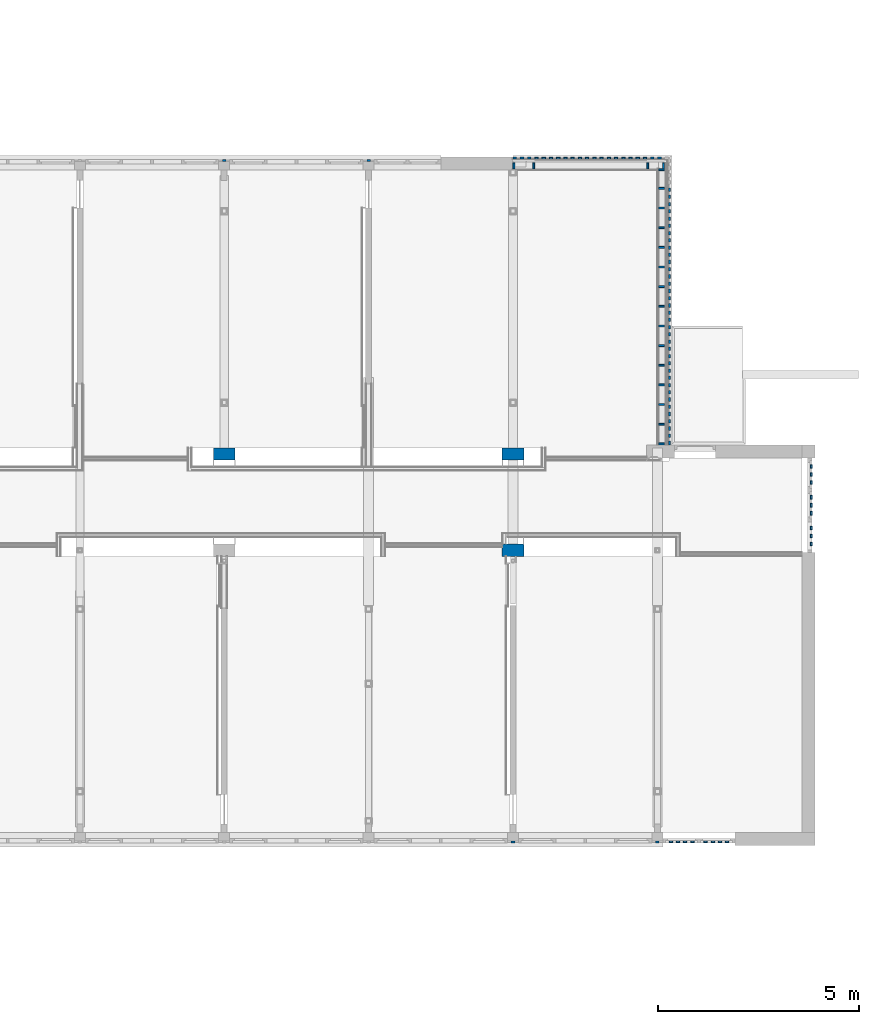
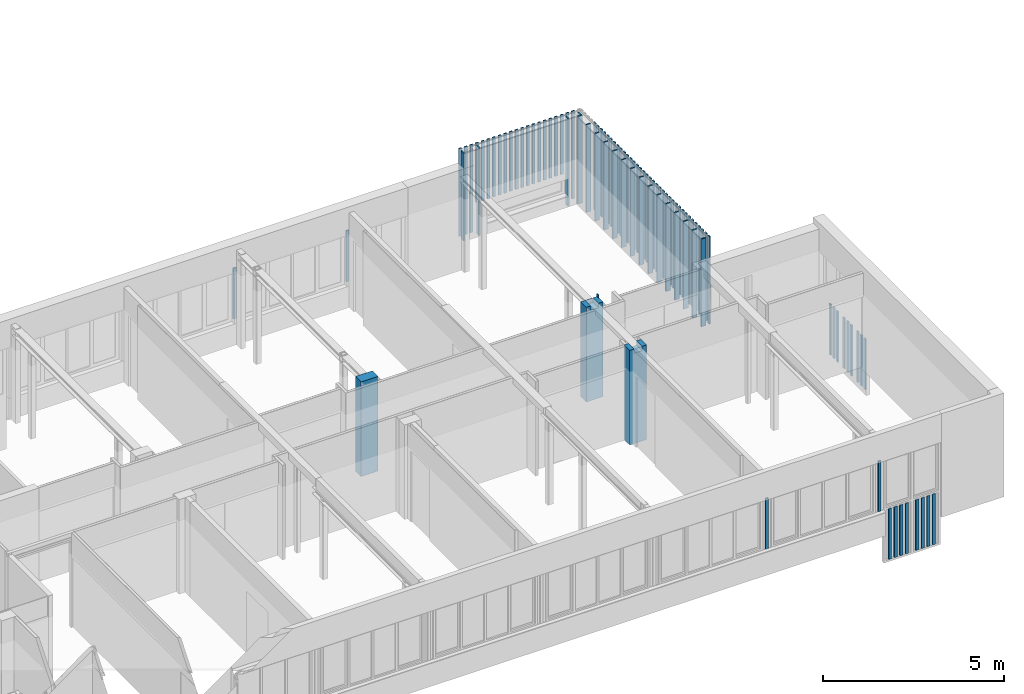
# One storey, part 16 of 99: 100 columns.
"""IFC2X3 building model written with IfcOpenShell, lengths in millimetres."""

from ifc_helpers import new_model, entity, si_unit, converted_unit, derived_unit, money_unit, direction, frame, origin_with_axes, place, context, subcontext, project, spatial, faceted_brep, material, type_object, element, save


model = new_model("IFC2X3")

# Units and contexts
model_context = context("Model", 3, precision=0.01, world=origin_with_axes(), true_north=direction((0.0, 1.0)))
body_context = subcontext(model_context, "Body", "Model", "MODEL_VIEW")
ifc_project = project(units=[si_unit("LENGTHUNIT", "METRE", prefix="MILLI"), si_unit("AREAUNIT", "SQUARE_METRE"), si_unit("VOLUMEUNIT", "CUBIC_METRE"), converted_unit("PLANEANGLEUNIT", "DEGREE", entity("IfcPlaneAngleMeasure", 0.0174532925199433), si_unit("PLANEANGLEUNIT", "RADIAN"), dimensions=[0, 0, 0, 0, 0, 0, 0]), money_unit("EUR"), converted_unit("TIMEUNIT", "Year", entity("IfcTimeMeasure", 31557600.0), si_unit("TIMEUNIT", "SECOND"), dimensions=[0, 0, 1, 0, 0, 0, 0]), si_unit("MASSUNIT", "GRAM", prefix="KILO"), si_unit("THERMODYNAMICTEMPERATUREUNIT", "DEGREE_CELSIUS"), si_unit("LUMINOUSINTENSITYUNIT", "LUMEN"), si_unit("ENERGYUNIT", "JOULE", prefix="MEGA"), derived_unit("THERMALCONDUCTANCEUNIT", [(si_unit("POWERUNIT", "WATT"), 1), (si_unit("LENGTHUNIT", "METRE"), -1), (si_unit("THERMODYNAMICTEMPERATUREUNIT", "KELVIN"), -1)]), derived_unit("SPECIFICHEATCAPACITYUNIT", [(si_unit("ENERGYUNIT", "JOULE"), 1), (si_unit("MASSUNIT", "GRAM", prefix="KILO"), -1), (si_unit("THERMODYNAMICTEMPERATUREUNIT", "KELVIN"), -1)]), derived_unit("MASSDENSITYUNIT", [(si_unit("MASSUNIT", "GRAM", prefix="KILO"), 1), (si_unit("VOLUMEUNIT", "CUBIC_METRE"), -1)])], contexts=[model_context])

# Site, building, storey
site_placement = place(None, origin_with_axes())
site = spatial("IfcSite", under=ifc_project, at=site_placement, Name="Site", CompositionType="ELEMENT")
building_placement = place(site_placement, origin_with_axes())
building = spatial("IfcBuilding", under=site, at=building_placement, Name="Naam gebouw", CompositionType="ELEMENT")
storey_placement = place(building_placement, frame((0.0, 0.0, 7650.0), z_axis=(0.0, 0.0, 1.0), x_axis=(1.0, 0.0, 0.0)))
storey = spatial("IfcBuildingStorey", under=building, at=storey_placement, Name="2e verdieping N", CompositionType="ELEMENT", Elevation=7650.0)

# Columns
ifc_material_1 = material(Name="Metaal - Staal C")
column_type_1 = type_object("IfcColumnType", Name="Metaal - Staal C 90 x 44", PredefinedType="COLUMN")
for number, where, z_axis, x_axis, name in (
    (1, (54337.74999999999, 10752.91242510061, -993.0000000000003), (0.0, 0.0, 1.0), (1.0, 0.0, 0.0), "_Kolom-x"),
    (2, (54515.41666666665, 10752.91242510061, -993.0000000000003), (0.0, 0.0, 1.0), (1.0, 0.0, 0.0), "_Kolom-x"),
    (3, (54693.08333333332, 10752.91242510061, -993.0000000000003), (0.0, 0.0, 1.0), (1.0, 0.0, 0.0), "_Kolom-x"),
    (4, (54870.74999999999, 10752.91242510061, -993.0000000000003), (0.0, 0.0, 1.0), (1.0, 0.0, 0.0), "_Kolom-x"),
    (5, (55204.24999999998, 10752.91242510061, -993.0000000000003), (0.0, 0.0, 1.0), (1.0, 0.0, 0.0), "_Kolom-x"),
    (6, (55381.91666666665, 10752.91242510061, -993.0000000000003), (0.0, 0.0, 1.0), (1.0, 0.0, 0.0), "_Kolom-x"),
    (7, (55559.58333333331, 10752.91242510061, -993.0000000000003), (0.0, 0.0, 1.0), (1.0, 0.0, 0.0), "_Kolom-x"),
    (8, (55737.24999999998, 10752.91242510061, -993.0000000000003), (0.0, 0.0, 1.0), (1.0, 0.0, 0.0), "_Kolom-x"),
):
    element("IfcColumn", number, at=place(storey_placement, frame(where, z_axis=z_axis, x_axis=x_axis)), inside=storey, type_object=column_type_1, material=ifc_material_1, Name=name, ObjectType="COLUMN", context=body_context, shape_type="Brep", body=[
        faceted_brep([(-45.00000000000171, -22.00000000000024, 1713.000000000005), (-45.00000000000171, -22.00000000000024, 0.0), (45.00000000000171, -22.00000000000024, 0.0), (45.00000000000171, -22.00000000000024, 1713.000000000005), (-45.00000000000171, 22.00000000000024, 1713.000000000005), (-45.00000000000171, 22.00000000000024, 0.0), (45.00000000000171, 22.00000000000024, 0.0), (45.00000000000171, 22.00000000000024, 1713.000000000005)], [[[0, 1, 2, 3]], [[4, 5, 1, 0]], [[2, 1, 5, 6]], [[3, 2, 6, 7]], [[4, 0, 3, 7]], [[7, 6, 5, 4]]]),
    ])
for number, where, z_axis, x_axis, name in (
    (9, (50399.99999999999, 10752.9124251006, 719.9999999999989), (0.0, 0.0, 1.0), (1.0, 0.0, 0.0), "_Kolom-x"),
    (10, (53999.99999999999, 10752.9124251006, 719.9999999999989), (0.0, 0.0, 1.0), (1.0, 0.0, 0.0), "_Kolom-x"),
):
    element("IfcColumn", number, at=place(storey_placement, frame(where, z_axis=z_axis, x_axis=x_axis)), inside=storey, type_object=column_type_1, material=ifc_material_1, Name=name, ObjectType="COLUMN", context=body_context, shape_type="Brep", body=[
        faceted_brep([(45.00000000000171, -22.00000000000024, 17.63269807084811), (45.00000000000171, -16.99999999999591, 18.51433297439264), (45.00000000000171, -16.99999999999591, 28.51433297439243), (45.00000000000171, -14.99999999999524, 28.51433297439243), (45.00000000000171, -14.99999999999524, 16.83613371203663), (45.00000000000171, -22.00000000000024, 15.60184484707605), (45.00000000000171, -22.00000000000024, 0.0), (45.00000000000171, 22.00000000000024, 0.0), (45.00000000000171, 22.00000000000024, 1720.000000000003), (45.00000000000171, -22.00000000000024, 1720.000000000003), (-45.00000000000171, -16.99999999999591, 18.51433297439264), (-45.00000000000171, -22.00000000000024, 17.63269807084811), (-45.00000000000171, -16.99999999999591, 28.51433297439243), (-45.00000000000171, -14.99999999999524, 28.51433297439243), (-45.00000000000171, -14.99999999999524, 16.83613371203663), (-45.00000000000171, -22.00000000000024, 15.60184484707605), (-45.00000000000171, -22.00000000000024, 0.0), (-45.00000000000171, 22.00000000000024, 0.0), (-45.00000000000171, 22.00000000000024, 1720.000000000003), (-45.00000000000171, -22.00000000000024, 1720.000000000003)], [[[0, 1, 2, 3, 4, 5, 6, 7, 8, 9]], [[10, 1, 0, 11]], [[12, 2, 1, 10]], [[13, 3, 2, 12]], [[14, 4, 3, 13]], [[15, 5, 4, 14]], [[6, 5, 15, 16]], [[7, 6, 16, 17]], [[18, 8, 7, 17]], [[8, 18, 19, 9]], [[19, 11, 0, 9]], [[12, 10, 11, 19, 18, 17, 16, 15, 14, 13]]]),
    ])
for number, where, z_axis, x_axis, name in (
    (11, (57837.99999999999, 19712.31718700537, -993.0000000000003), (0.0, 0.0, 1.0), (0.0, 1.0, 0.0), "_Kolom-x"),
    (12, (57837.99999999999, 19911.07909176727, -993.0000000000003), (0.0, 0.0, 1.0), (0.0, 1.0, 0.0), "_Kolom-x"),
    (13, (57837.99999999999, 20109.84099652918, -993.0000000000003), (0.0, 0.0, 1.0), (0.0, 1.0, 0.0), "_Kolom-x"),
    (14, (57837.99999999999, 18949.6505203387, -993.0000000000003), (0.0, 0.0, 1.0), (0.0, 1.0, 0.0), "_Kolom-x"),
    (15, (57837.99999999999, 19148.41242510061, -993.0000000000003), (0.0, 0.0, 1.0), (0.0, 1.0, 0.0), "_Kolom-x"),
    (16, (57837.99999999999, 19347.17432986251, -993.0000000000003), (0.0, 0.0, 1.0), (0.0, 1.0, 0.0), "_Kolom-x"),
    (17, (57837.99999999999, 18186.98385367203, -993.0000000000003), (0.0, 0.0, 1.0), (0.0, 1.0, 0.0), "_Kolom-x"),
    (18, (57837.99999999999, 18385.74575843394, -993.0000000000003), (0.0, 0.0, 1.0), (0.0, 1.0, 0.0), "_Kolom-x"),
    (19, (57837.99999999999, 18584.50766319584, -993.0000000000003), (0.0, 0.0, 1.0), (0.0, 1.0, 0.0), "_Kolom-x"),
):
    element("IfcColumn", number, at=place(storey_placement, frame(where, z_axis=z_axis, x_axis=x_axis)), inside=storey, type_object=column_type_1, material=ifc_material_1, Name=name, ObjectType="COLUMN", context=body_context, shape_type="Brep", body=[
        faceted_brep([(-45.00000000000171, -21.99999999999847, 1713.000000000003), (-45.00000000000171, -21.99999999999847, 0.0), (45.00000000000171, -21.99999999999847, 0.0), (45.00000000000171, -21.99999999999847, 1713.000000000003), (-45.00000000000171, 21.99999999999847, 1713.000000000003), (-45.00000000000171, 21.99999999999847, 0.0), (45.00000000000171, 21.99999999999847, 0.0), (45.00000000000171, 21.99999999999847, 1713.000000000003)], [[[0, 1, 2, 3]], [[4, 5, 1, 0]], [[2, 1, 5, 6]], [[3, 2, 6, 7]], [[4, 0, 3, 7]], [[7, 6, 5, 4]]]),
    ])
column_1_placement = place(storey_placement, frame((46799.99999999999, 27743.91242510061, 719.9999999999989), z_axis=(0.0, 0.0, 1.0), x_axis=(-1.0, 0.0, 0.0)))
element("IfcColumn", 20, at=column_1_placement, inside=storey, type_object=column_type_1, material=ifc_material_1, Name="_Kolom-x", ObjectType="COLUMN", context=body_context, shape_type="Brep", body=[
    faceted_brep([(-45.00000000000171, -14.99999999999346, 28.51433297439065), (-45.00000000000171, -16.99999999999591, 28.51433297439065), (-45.00000000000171, -16.99999999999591, 18.51433297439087), (-45.00000000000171, -21.99999999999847, 17.63269807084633), (-45.00000000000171, -21.99999999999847, 1720.000000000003), (-45.00000000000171, 21.99999999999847, 1720.000000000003), (-45.00000000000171, 21.99999999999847, 0.0), (-45.00000000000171, -21.99999999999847, 0.0), (-45.00000000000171, -21.99999999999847, 15.60184484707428), (-45.00000000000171, -14.99999999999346, 16.83613371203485), (45.00000000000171, -16.99999999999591, 28.51433297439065), (45.00000000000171, -14.99999999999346, 28.51433297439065), (45.00000000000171, -16.99999999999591, 18.51433297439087), (45.00000000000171, -21.99999999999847, 17.63269807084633), (45.00000000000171, -21.99999999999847, 1720.000000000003), (45.00000000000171, 21.99999999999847, 1720.000000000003), (45.00000000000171, 21.99999999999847, 0.0), (45.00000000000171, -21.99999999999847, 0.0), (45.00000000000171, -21.99999999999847, 15.60184484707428), (45.00000000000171, -14.99999999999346, 16.83613371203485)], [[[0, 1, 2, 3, 4, 5, 6, 7, 8, 9]], [[10, 1, 0, 11]], [[12, 2, 1, 10]], [[12, 13, 3, 2]], [[4, 3, 13, 14]], [[15, 5, 4, 14]], [[5, 15, 16, 6]], [[16, 17, 7, 6]], [[17, 18, 8, 7]], [[19, 9, 8, 18]], [[11, 0, 9, 19]], [[11, 19, 18, 17, 16, 15, 14, 13, 12, 10]]]),
])
column_2_placement = place(storey_placement, frame((43199.99999999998, 27743.91242510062, 719.9999999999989), z_axis=(0.0, 0.0, 1.0), x_axis=(-1.0, 0.0, 0.0)))
element("IfcColumn", 21, at=column_2_placement, inside=storey, type_object=column_type_1, material=ifc_material_1, Name="_Kolom-x", ObjectType="COLUMN", context=body_context, shape_type="Brep", body=[
    faceted_brep([(-45.00000000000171, -14.99999999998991, 28.51433297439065), (-45.00000000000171, -16.99999999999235, 28.51433297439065), (-45.00000000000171, -16.99999999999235, 18.51433297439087), (-45.00000000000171, -21.99999999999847, 17.63269807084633), (-45.00000000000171, -21.99999999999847, 1720.000000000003), (-45.00000000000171, 21.99999999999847, 1720.000000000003), (-45.00000000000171, 21.99999999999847, 0.0), (-45.00000000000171, -21.99999999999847, 0.0), (-45.00000000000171, -21.99999999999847, 15.60184484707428), (-45.00000000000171, -14.99999999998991, 16.83613371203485), (45.00000000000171, -16.99999999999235, 28.51433297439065), (45.00000000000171, -14.99999999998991, 28.51433297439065), (45.00000000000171, -16.99999999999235, 18.51433297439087), (45.00000000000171, -21.99999999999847, 17.63269807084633), (45.00000000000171, -21.99999999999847, 1720.000000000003), (45.00000000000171, 21.99999999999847, 1720.000000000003), (45.00000000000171, 21.99999999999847, 0.0), (45.00000000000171, -21.99999999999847, 0.0), (45.00000000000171, -21.99999999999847, 15.60184484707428), (45.00000000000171, -14.99999999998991, 16.83613371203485)], [[[0, 1, 2, 3, 4, 5, 6, 7, 8, 9]], [[10, 1, 0, 11]], [[12, 2, 1, 10]], [[12, 13, 3, 2]], [[4, 3, 13, 14]], [[15, 5, 4, 14]], [[5, 15, 16, 6]], [[16, 17, 7, 6]], [[17, 18, 8, 7]], [[19, 9, 8, 18]], [[11, 0, 9, 19]], [[11, 19, 18, 17, 16, 15, 14, 13, 12, 10]]]),
])
for number, where, z_axis, x_axis, name in (
    (22, (54052.62790697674, 27805.91242510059, 939.9999999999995), (0.0, 0.0, 1.0), (-1.0, 0.0, 0.0), "_Kolom-x"),
    (23, (53872.25581395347, 27805.91242510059, 939.9999999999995), (0.0, 0.0, 1.0), (-1.0, 0.0, 0.0), "_Kolom-x"),
    (24, (50805.93023255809, 27805.91242510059, 939.9999999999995), (0.0, 0.0, 1.0), (-1.0, 0.0, 0.0), "_Kolom-x"),
    (25, (50445.18604651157, 27805.9124251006, 939.9999999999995), (0.0, 0.0, 1.0), (-1.0, 0.0, 0.0), "_Kolom-x"),
    (26, (50625.55813953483, 27805.9124251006, 939.9999999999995), (0.0, 0.0, 1.0), (-1.0, 0.0, 0.0), "_Kolom-x"),
):
    element("IfcColumn", number, at=place(storey_placement, frame(where, z_axis=z_axis, x_axis=x_axis)), inside=storey, type_object=column_type_1, material=ifc_material_1, Name=name, ObjectType="COLUMN", context=body_context, shape_type="Brep", body=[
        faceted_brep([(45.00000000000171, -21.99999999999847, 0.0), (45.00000000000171, -21.99999999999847, 4.669572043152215), (-45.00000000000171, -21.99999999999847, 4.669572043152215), (-45.00000000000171, -21.99999999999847, 0.0), (45.00000000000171, 21.99999999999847, 0.0), (45.00000000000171, 21.99999999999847, 12.4279591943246), (-45.00000000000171, 21.99999999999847, 12.4279591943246), (-45.00000000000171, 21.99999999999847, 0.0)], [[[0, 1, 2, 3]], [[4, 5, 1, 0]], [[5, 6, 2, 1]], [[3, 2, 6, 7]], [[4, 0, 3, 7]], [[7, 6, 5, 4]]]),
        faceted_brep([(-45.00000000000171, 21.99999999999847, 2960.000000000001), (-45.00000000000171, 21.99999999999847, 14.45881241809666), (-45.00000000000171, -21.99999999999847, 6.70042526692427), (-45.00000000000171, -21.99999999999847, 2960.000000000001), (45.00000000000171, 21.99999999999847, 2960.000000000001), (45.00000000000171, 21.99999999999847, 14.45881241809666), (45.00000000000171, -21.99999999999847, 6.70042526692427), (45.00000000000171, -21.99999999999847, 2960.000000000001)], [[[0, 1, 2, 3]], [[4, 5, 1, 0]], [[5, 6, 2, 1]], [[3, 2, 6, 7]], [[4, 0, 3, 7]], [[7, 6, 5, 4]]]),
    ])
for number, where, z_axis, x_axis, name in (
    (27, (53691.88372093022, 27805.91242510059, 1890.0), (0.0, 0.0, 1.0), (-1.0, 0.0, 0.0), "_Kolom-x"),
    (28, (53511.51162790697, 27805.91242510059, 1890.0), (0.0, 0.0, 1.0), (-1.0, 0.0, 0.0), "_Kolom-x"),
    (29, (53331.1395348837, 27805.91242510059, 1890.0), (0.0, 0.0, 1.0), (-1.0, 0.0, 0.0), "_Kolom-x"),
    (30, (53150.76744186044, 27805.91242510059, 1890.0), (0.0, 0.0, 1.0), (-1.0, 0.0, 0.0), "_Kolom-x"),
    (31, (52970.39534883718, 27805.91242510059, 1890.0), (0.0, 0.0, 1.0), (-1.0, 0.0, 0.0), "_Kolom-x"),
    (32, (52790.02325581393, 27805.91242510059, 1890.0), (0.0, 0.0, 1.0), (-1.0, 0.0, 0.0), "_Kolom-x"),
    (33, (52609.65116279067, 27805.91242510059, 1890.0), (0.0, 0.0, 1.0), (-1.0, 0.0, 0.0), "_Kolom-x"),
    (34, (52429.27906976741, 27805.91242510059, 1890.0), (0.0, 0.0, 1.0), (-1.0, 0.0, 0.0), "_Kolom-x"),
    (35, (52248.90697674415, 27805.91242510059, 1890.0), (0.0, 0.0, 1.0), (-1.0, 0.0, 0.0), "_Kolom-x"),
    (36, (52068.53488372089, 27805.91242510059, 1890.0), (0.0, 0.0, 1.0), (-1.0, 0.0, 0.0), "_Kolom-x"),
    (37, (51888.16279069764, 27805.91242510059, 1890.0), (0.0, 0.0, 1.0), (-1.0, 0.0, 0.0), "_Kolom-x"),
    (38, (51707.79069767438, 27805.91242510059, 1890.0), (0.0, 0.0, 1.0), (-1.0, 0.0, 0.0), "_Kolom-x"),
    (39, (51527.41860465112, 27805.91242510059, 1890.0), (0.0, 0.0, 1.0), (-1.0, 0.0, 0.0), "_Kolom-x"),
    (40, (51166.6744186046, 27805.91242510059, 1890.0), (0.0, 0.0, 1.0), (-1.0, 0.0, 0.0), "_Kolom-x"),
    (41, (51347.04651162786, 27805.91242510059, 1890.0), (0.0, 0.0, 1.0), (-1.0, 0.0, 0.0), "_Kolom-x"),
    (42, (50986.30232558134, 27805.91242510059, 1890.0), (0.0, 0.0, 1.0), (-1.0, 0.0, 0.0), "_Kolom-x"),
):
    element("IfcColumn", number, at=place(storey_placement, frame(where, z_axis=z_axis, x_axis=x_axis)), inside=storey, type_object=column_type_1, material=ifc_material_1, Name=name, ObjectType="COLUMN", context=body_context, shape_type="Brep", body=[
        faceted_brep([(-45.00000000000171, -21.99999999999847, 2010.0), (-45.00000000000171, -21.99999999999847, 0.0), (45.00000000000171, -21.99999999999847, 0.0), (45.00000000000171, -21.99999999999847, 2010.0), (-45.00000000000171, 21.99999999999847, 2010.0), (-45.00000000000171, 21.99999999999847, 0.0), (45.00000000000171, 21.99999999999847, 0.0), (45.00000000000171, 21.99999999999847, 2010.0)], [[[0, 1, 2, 3]], [[4, 5, 1, 0]], [[2, 1, 5, 6]], [[3, 2, 6, 7]], [[4, 0, 3, 7]], [[7, 6, 5, 4]]]),
    ])
for number, where, z_axis, x_axis, name in (
    (43, (54300.00000000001, 27017.09976687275, 939.9999999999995), (0.0, 0.0, 1.0), (0.0, 1.0, 0.0), "_Kolom-x"),
    (44, (54300.00000000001, 26836.64660231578, 939.9999999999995), (0.0, 0.0, 1.0), (0.0, 1.0, 0.0), "_Kolom-x"),
    (45, (54300.00000000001, 26656.19343775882, 939.9999999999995), (0.0, 0.0, 1.0), (0.0, 1.0, 0.0), "_Kolom-x"),
    (46, (54300.00000000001, 26475.74027320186, 939.9999999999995), (0.0, 0.0, 1.0), (0.0, 1.0, 0.0), "_Kolom-x"),
    (47, (54300.00000000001, 26295.2871086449, 939.9999999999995), (0.0, 0.0, 1.0), (0.0, 1.0, 0.0), "_Kolom-x"),
    (48, (54300.00000000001, 25934.38077953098, 939.9999999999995), (0.0, 0.0, 1.0), (0.0, 1.0, 0.0), "_Kolom-x"),
    (49, (54300.00000000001, 26114.83394408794, 939.9999999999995), (0.0, 0.0, 1.0), (0.0, 1.0, 0.0), "_Kolom-x"),
    (50, (54300.00000000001, 25753.92761497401, 939.9999999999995), (0.0, 0.0, 1.0), (0.0, 1.0, 0.0), "_Kolom-x"),
    (51, (54300.00000000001, 25573.47445041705, 939.9999999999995), (0.0, 0.0, 1.0), (0.0, 1.0, 0.0), "_Kolom-x"),
    (52, (54300.00000000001, 25393.02128586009, 939.9999999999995), (0.0, 0.0, 1.0), (0.0, 1.0, 0.0), "_Kolom-x"),
    (53, (54300.00000000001, 25212.56812130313, 939.9999999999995), (0.0, 0.0, 1.0), (0.0, 1.0, 0.0), "_Kolom-x"),
    (54, (54300.00000000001, 24851.66179218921, 939.9999999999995), (0.0, 0.0, 1.0), (0.0, 1.0, 0.0), "_Kolom-x"),
    (55, (54300.00000000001, 24671.20862763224, 939.9999999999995), (0.0, 0.0, 1.0), (0.0, 1.0, 0.0), "_Kolom-x"),
    (56, (54300.00000000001, 24490.75546307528, 939.9999999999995), (0.0, 0.0, 1.0), (0.0, 1.0, 0.0), "_Kolom-x"),
    (57, (54300.00000000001, 24310.30229851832, 939.9999999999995), (0.0, 0.0, 1.0), (0.0, 1.0, 0.0), "_Kolom-x"),
    (58, (54300.00000000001, 25032.11495674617, 939.9999999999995), (0.0, 0.0, 1.0), (0.0, 1.0, 0.0), "_Kolom-x"),
    (59, (54300.00000000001, 23949.3959694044, 939.9999999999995), (0.0, 0.0, 1.0), (0.0, 1.0, 0.0), "_Kolom-x"),
    (60, (54300.00000000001, 24129.84913396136, 939.9999999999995), (0.0, 0.0, 1.0), (0.0, 1.0, 0.0), "_Kolom-x"),
    (61, (54300.00000000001, 23768.94280484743, 939.9999999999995), (0.0, 0.0, 1.0), (0.0, 1.0, 0.0), "_Kolom-x"),
    (62, (54300.00000000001, 23408.03647573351, 939.9999999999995), (0.0, 0.0, 1.0), (0.0, 1.0, 0.0), "_Kolom-x"),
    (63, (54300.00000000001, 23227.58331117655, 939.9999999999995), (0.0, 0.0, 1.0), (0.0, 1.0, 0.0), "_Kolom-x"),
    (64, (54300.00000000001, 23047.13014661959, 939.9999999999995), (0.0, 0.0, 1.0), (0.0, 1.0, 0.0), "_Kolom-x"),
    (65, (54300.00000000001, 22686.22381750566, 939.9999999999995), (0.0, 0.0, 1.0), (0.0, 1.0, 0.0), "_Kolom-x"),
    (66, (54300.00000000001, 22866.67698206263, 939.9999999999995), (0.0, 0.0, 1.0), (0.0, 1.0, 0.0), "_Kolom-x"),
    (67, (54300.00000000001, 22505.7706529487, 939.9999999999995), (0.0, 0.0, 1.0), (0.0, 1.0, 0.0), "_Kolom-x"),
    (68, (54300.00000000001, 22325.31748839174, 939.9999999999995), (0.0, 0.0, 1.0), (0.0, 1.0, 0.0), "_Kolom-x"),
    (69, (54300.00000000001, 23588.48964029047, 939.9999999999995), (0.0, 0.0, 1.0), (0.0, 1.0, 0.0), "_Kolom-x"),
    (70, (54300.00000000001, 22144.86432383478, 939.9999999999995), (0.0, 0.0, 1.0), (0.0, 1.0, 0.0), "_Kolom-x"),
    (71, (54300.00000000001, 21964.41115927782, 939.9999999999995), (0.0, 0.0, 1.0), (0.0, 1.0, 0.0), "_Kolom-x"),
    (72, (54300.00000000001, 21603.50483016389, 939.9999999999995), (0.0, 0.0, 1.0), (0.0, 1.0, 0.0), "_Kolom-x"),
    (73, (54300.00000000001, 21423.05166560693, 939.9999999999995), (0.0, 0.0, 1.0), (0.0, 1.0, 0.0), "_Kolom-x"),
    (74, (54300.00000000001, 21242.59850104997, 939.9999999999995), (0.0, 0.0, 1.0), (0.0, 1.0, 0.0), "_Kolom-x"),
    (75, (54300.00000000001, 21062.14533649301, 939.9999999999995), (0.0, 0.0, 1.0), (0.0, 1.0, 0.0), "_Kolom-x"),
    (76, (54300.00000000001, 20881.69217193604, 939.9999999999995), (0.0, 0.0, 1.0), (0.0, 1.0, 0.0), "_Kolom-x"),
    (77, (54300.00000000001, 20701.23900737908, 939.9999999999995), (0.0, 0.0, 1.0), (0.0, 1.0, 0.0), "_Kolom-x"),
    (78, (54300.00000000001, 21783.95799472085, 939.9999999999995), (0.0, 0.0, 1.0), (0.0, 1.0, 0.0), "_Kolom-x"),
):
    element("IfcColumn", number, at=place(storey_placement, frame(where, z_axis=z_axis, x_axis=x_axis)), inside=storey, type_object=column_type_1, material=ifc_material_1, Name=name, ObjectType="COLUMN", context=body_context, shape_type="Brep", body=[
        faceted_brep([(45.00000000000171, 21.99999999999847, 0.0), (45.00000000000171, 21.99999999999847, 12.4279591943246), (45.00000000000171, -21.99999999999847, 4.669572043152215), (45.00000000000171, -21.99999999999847, 0.0), (-45.00000000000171, 21.99999999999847, 0.0), (-45.00000000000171, 21.99999999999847, 12.4279591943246), (-45.00000000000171, -21.99999999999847, 4.669572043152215), (-45.00000000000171, -21.99999999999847, 0.0)], [[[0, 1, 2, 3]], [[4, 5, 1, 0]], [[5, 6, 2, 1]], [[3, 2, 6, 7]], [[0, 3, 7, 4]], [[7, 6, 5, 4]]]),
        faceted_brep([(-45.00000000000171, -21.99999999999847, 2960.000000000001), (-45.00000000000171, -21.99999999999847, 6.70042526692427), (45.00000000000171, -21.99999999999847, 6.70042526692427), (45.00000000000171, -21.99999999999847, 2960.000000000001), (-45.00000000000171, 21.99999999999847, 2960.000000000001), (-45.00000000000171, 21.99999999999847, 14.45881241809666), (45.00000000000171, 21.99999999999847, 14.45881241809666), (45.00000000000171, 21.99999999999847, 2960.000000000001)], [[[0, 1, 2, 3]], [[4, 5, 1, 0]], [[5, 6, 2, 1]], [[3, 2, 6, 7]], [[7, 4, 0, 3]], [[7, 6, 5, 4]]]),
    ])
ifc_material_2 = material(Name="ALG - CONSTRUCTIEF")
column_type_2 = type_object("IfcColumnType", Name="ALG - CONSTRUCTIEF 540 x 310", PredefinedType="COLUMN")
column_3_placement = place(storey_placement, frame((50399.99999999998, 18025.91242510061, -99.99999999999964), z_axis=(0.0, 0.0, 1.0), x_axis=(1.0, 0.0, 0.0)))
element("IfcColumn", 79, at=column_3_placement, inside=storey, type_object=column_type_2, material=ifc_material_2, Name="_Kolom-x", ObjectType="COLUMN", context=body_context, shape_type="Brep", body=[
    faceted_brep([(-124.9999999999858, 155.0000000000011, 3299.999999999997), (-124.9999999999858, 155.0000000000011, 3149.999999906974), (125.0000000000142, 155.0000000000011, 3149.999999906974), (125.0000000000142, 155.0000000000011, 3299.999999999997), (270.0000000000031, 155.0000000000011, 3299.999999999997), (270.0000000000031, 155.0000000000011, 99.99999999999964), (-270.0000000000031, 155.0000000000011, 99.99999999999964), (-270.0000000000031, 155.0000000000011, 3299.999999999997), (-124.9999999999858, -155.0000000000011, 3149.999999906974), (-124.9999999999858, -155.0000000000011, 3299.999999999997), (125.0000000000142, -155.0000000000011, 3149.999999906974), (125.0000000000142, -155.0000000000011, 3299.999999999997), (270.0000000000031, -155.0000000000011, 3299.999999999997), (270.0000000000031, -155.0000000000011, 99.99999999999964), (-270.0000000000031, -155.0000000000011, 99.99999999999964), (-270.0000000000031, -155.0000000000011, 3299.999999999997)], [[[0, 1, 2, 3, 4, 5, 6, 7]], [[8, 1, 0, 9]], [[10, 2, 1, 8]], [[10, 11, 3, 2]], [[4, 3, 11, 12]], [[4, 12, 13, 5]], [[13, 14, 6, 5]], [[15, 7, 6, 14]], [[15, 9, 0, 7]], [[10, 8, 9, 15, 14, 13, 12, 11]]]),
])
column_4_placement = place(storey_placement, frame((50399.99999999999, 20425.91242510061, -99.99999999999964), z_axis=(0.0, 0.0, 1.0), x_axis=(1.0, 0.0, 0.0)))
element("IfcColumn", 80, at=column_4_placement, inside=storey, type_object=column_type_2, material=ifc_material_2, Name="_Kolom-x", ObjectType="COLUMN", context=body_context, shape_type="Brep", body=[
    faceted_brep([(-270.0000000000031, -155.0000000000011, 3299.999999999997), (-125.0, -155.0000000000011, 3299.999999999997), (-125.0, 150.0000000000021, 3299.999999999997), (125.0, 150.0000000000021, 3299.999999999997), (125.0, -155.0000000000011, 3299.999999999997), (270.0000000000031, -155.0000000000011, 3299.999999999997), (270.0000000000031, 74.99999999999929, 3299.999999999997), (239.9999999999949, 74.99999999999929, 3299.999999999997), (239.9999999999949, 155.0000000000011, 3299.999999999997), (-270.0000000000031, 155.0000000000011, 3299.999999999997), (125.0, -155.0000000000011, 3149.999999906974), (-125.0, -155.0000000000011, 3149.999999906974), (-270.0000000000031, -155.0000000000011, 99.99999999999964), (270.0000000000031, -155.0000000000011, 99.99999999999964), (-125.0, 150.0000000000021, 3149.999999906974), (125.0, 150.0000000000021, 3149.999999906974), (270.0000000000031, 155.0000000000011, 99.99999999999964), (270.0000000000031, 155.0000000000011, 3400.0), (270.0000000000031, 74.99999999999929, 3400.0), (239.9999999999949, 74.99999999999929, 3400.0), (239.9999999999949, 155.0000000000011, 3400.0), (-270.0000000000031, 155.0000000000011, 99.99999999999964)], [[[0, 1, 2, 3, 4, 5, 6, 7, 8, 9]], [[10, 11, 1, 0, 12, 13, 5, 4]], [[14, 2, 1, 11]], [[15, 3, 2, 14]], [[10, 4, 3, 15]], [[6, 5, 13, 16, 17, 18]], [[19, 7, 6, 18]], [[8, 7, 19, 20]], [[20, 17, 16, 21, 9, 8]], [[0, 9, 21, 12]], [[14, 11, 10, 15]], [[13, 12, 21, 16]], [[18, 17, 20, 19]]]),
])
column_5_placement = place(storey_placement, frame((43199.99999999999, 20425.91242510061, -99.99999999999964), z_axis=(0.0, 0.0, 1.0), x_axis=(1.0, 0.0, 0.0)))
element("IfcColumn", 81, at=column_5_placement, inside=storey, type_object=column_type_2, material=ifc_material_2, Name="_Kolom-x", ObjectType="COLUMN", context=body_context, shape_type="Brep", body=[
    faceted_brep([(270.0000000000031, -155.0000000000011, 3299.999999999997), (270.0000000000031, -155.0000000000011, 99.99999999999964), (270.0000000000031, 155.0000000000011, 99.99999999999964), (270.0000000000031, 155.0000000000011, 3299.999999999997), (-270.0000000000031, -155.0000000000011, 3299.999999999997), (-270.0000000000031, -155.0000000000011, 99.99999999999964), (-270.0000000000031, 155.0000000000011, 99.99999999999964), (-270.0000000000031, 155.0000000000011, 3299.999999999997)], [[[0, 1, 2, 3]], [[4, 5, 1, 0]], [[5, 6, 2, 1]], [[3, 2, 6, 7]], [[4, 0, 3, 7]], [[7, 6, 5, 4]]]),
])
ifc_material_3 = material(Name="Hout C")
column_type_3 = type_object("IfcColumnType", Name="Hout C 46 x 146", PredefinedType="COLUMN")
for number, where, z_axis, x_axis, name in (
    (82, (50423.0, 27608.9124251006, 939.9999999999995), (0.0, 0.0, 1.0), (1.0, 0.0, 0.0), "_Kolom-x"),
    (83, (50918.30232558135, 27608.9124251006, 939.9999999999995), (0.0, 0.0, 1.0), (1.0, 0.0, 0.0), "_Kolom-x"),
):
    element("IfcColumn", number, at=place(storey_placement, frame(where, z_axis=z_axis, x_axis=x_axis)), inside=storey, type_object=column_type_3, material=ifc_material_3, Name=name, ObjectType="COLUMN", context=body_context, shape_type="Brep", body=[
        faceted_brep([(-23.00000000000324, -73.0000000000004, 2960.000000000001), (-23.00000000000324, -73.0000000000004, 0.0), (23.00000000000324, -73.0000000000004, 0.0), (23.00000000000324, -73.0000000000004, 2960.000000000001), (-23.00000000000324, 73.0000000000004, 2960.000000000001), (-23.00000000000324, 73.0000000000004, 0.0), (23.00000000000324, 73.0000000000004, 0.0), (23.00000000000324, 73.0000000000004, 2960.000000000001)], [[[0, 1, 2, 3]], [[4, 5, 1, 0]], [[2, 1, 5, 6]], [[3, 2, 6, 7]], [[4, 0, 3, 7]], [[7, 6, 5, 4]]]),
    ])
for number, where, z_axis, x_axis, name in (
    (84, (54102.99999999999, 27049.0124251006, 939.9999999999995), (0.0, 0.0, 1.0), (0.0, -1.0, 0.0), "_Kolom-x"),
    (85, (54102.99999999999, 27512.9124251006, 939.9999999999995), (0.0, 0.0, 1.0), (0.0, -1.0, 0.0), "_Kolom-x"),
):
    element("IfcColumn", number, at=place(storey_placement, frame(where, z_axis=z_axis, x_axis=x_axis)), inside=storey, type_object=column_type_3, material=ifc_material_3, Name=name, ObjectType="COLUMN", context=body_context, shape_type="Brep", body=[
        faceted_brep([(-22.99999999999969, -73.0000000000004, 2960.000000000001), (-22.99999999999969, -73.0000000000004, 0.0), (22.99999999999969, -73.0000000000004, 0.0), (22.99999999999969, -73.0000000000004, 2960.000000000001), (-22.99999999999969, 73.0000000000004, 2960.000000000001), (-22.99999999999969, 73.0000000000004, 0.0), (22.99999999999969, 73.0000000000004, 0.0), (22.99999999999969, 73.0000000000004, 2960.000000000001)], [[[0, 1, 2, 3]], [[4, 5, 1, 0]], [[2, 1, 5, 6]], [[3, 2, 6, 7]], [[4, 0, 3, 7]], [[7, 6, 5, 4]]]),
    ])
for number, where, z_axis, x_axis, name in (
    (86, (53759.88372093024, 27608.9124251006, 939.9999999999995), (0.0, 0.0, 1.0), (1.0, 0.0, 0.0), "_Kolom-x"),
    (87, (54152.99999999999, 27608.9124251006, 939.9999999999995), (0.0, 0.0, 1.0), (1.0, 0.0, 0.0), "_Kolom-x"),
):
    element("IfcColumn", number, at=place(storey_placement, frame(where, z_axis=z_axis, x_axis=x_axis)), inside=storey, type_object=column_type_3, material=ifc_material_3, Name=name, ObjectType="COLUMN", context=body_context, shape_type="Brep", body=[
        faceted_brep([(-23.00000000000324, -73.0000000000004, 2960.000000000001), (-23.00000000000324, -73.0000000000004, 0.0), (23.00000000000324, -73.0000000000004, 0.0), (23.00000000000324, -73.0000000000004, 2960.000000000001), (-23.00000000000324, 73.0000000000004, 2960.000000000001), (-23.00000000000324, 73.0000000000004, 0.0), (23.00000000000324, 73.0000000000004, 0.0), (23.00000000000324, 73.0000000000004, 2960.000000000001)], [[[0, 1, 2, 3]], [[4, 5, 1, 0]], [[2, 1, 5, 6]], [[3, 2, 6, 7]], [[4, 0, 3, 7]], [[7, 6, 5, 4]]]),
    ])
for number, where, z_axis, x_axis, name in (
    (88, (54102.99999999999, 20679.0124251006, 939.9999999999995), (0.0, 0.0, 1.0), (0.0, -1.0, 0.0), "_Kolom-x"),
    (89, (54102.99999999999, 21169.0124251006, 939.9999999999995), (0.0, 0.0, 1.0), (0.0, -1.0, 0.0), "_Kolom-x"),
    (90, (54102.99999999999, 21659.0124251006, 939.9999999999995), (0.0, 0.0, 1.0), (0.0, -1.0, 0.0), "_Kolom-x"),
    (91, (54102.99999999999, 22149.0124251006, 939.9999999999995), (0.0, 0.0, 1.0), (0.0, -1.0, 0.0), "_Kolom-x"),
    (92, (54102.99999999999, 22639.0124251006, 939.9999999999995), (0.0, 0.0, 1.0), (0.0, -1.0, 0.0), "_Kolom-x"),
    (93, (54102.99999999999, 23129.0124251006, 939.9999999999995), (0.0, 0.0, 1.0), (0.0, -1.0, 0.0), "_Kolom-x"),
    (94, (54102.99999999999, 23619.0124251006, 939.9999999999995), (0.0, 0.0, 1.0), (0.0, -1.0, 0.0), "_Kolom-x"),
    (95, (54102.99999999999, 24109.0124251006, 939.9999999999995), (0.0, 0.0, 1.0), (0.0, -1.0, 0.0), "_Kolom-x"),
    (96, (54102.99999999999, 24599.0124251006, 939.9999999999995), (0.0, 0.0, 1.0), (0.0, -1.0, 0.0), "_Kolom-x"),
    (97, (54102.99999999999, 25579.01242510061, 939.9999999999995), (0.0, 0.0, 1.0), (0.0, -1.0, 0.0), "_Kolom-x"),
    (98, (54102.99999999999, 25089.0124251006, 939.9999999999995), (0.0, 0.0, 1.0), (0.0, -1.0, 0.0), "_Kolom-x"),
    (99, (54102.99999999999, 26559.0124251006, 939.9999999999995), (0.0, 0.0, 1.0), (0.0, -1.0, 0.0), "_Kolom-x"),
    (100, (54102.99999999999, 26069.0124251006, 939.9999999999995), (0.0, 0.0, 1.0), (0.0, -1.0, 0.0), "_Kolom-x"),
):
    element("IfcColumn", number, at=place(storey_placement, frame(where, z_axis=z_axis, x_axis=x_axis)), inside=storey, type_object=column_type_3, material=ifc_material_3, Name=name, ObjectType="COLUMN", context=body_context, shape_type="Brep", body=[
        faceted_brep([(-22.99999999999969, -73.0000000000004, 2960.000000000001), (-22.99999999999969, -73.0000000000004, 0.0), (22.99999999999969, -73.0000000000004, 0.0), (22.99999999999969, -73.0000000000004, 2960.000000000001), (-22.99999999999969, 73.0000000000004, 2960.000000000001), (-22.99999999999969, 73.0000000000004, 0.0), (22.99999999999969, 73.0000000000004, 0.0), (22.99999999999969, 73.0000000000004, 2960.000000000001)], [[[0, 1, 2, 3]], [[4, 5, 1, 0]], [[2, 1, 5, 6]], [[3, 2, 6, 7]], [[4, 0, 3, 7]], [[7, 6, 5, 4]]]),
    ])

save(model, "model.ifc")
